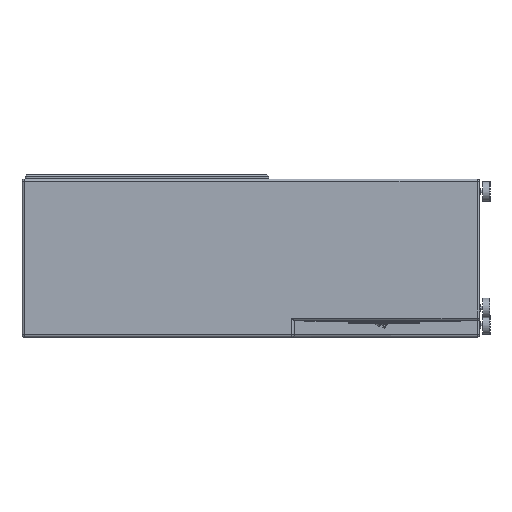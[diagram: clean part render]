
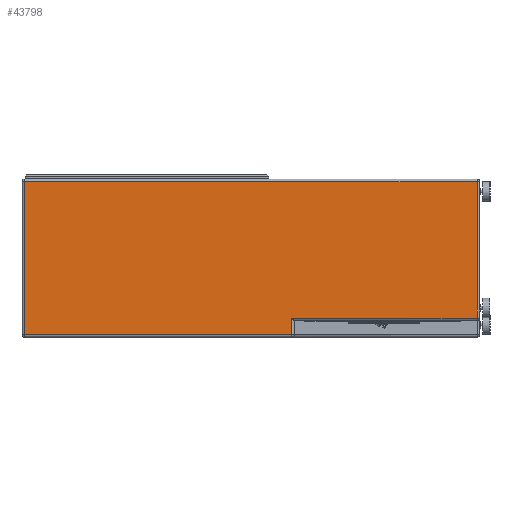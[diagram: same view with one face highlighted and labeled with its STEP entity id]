
A CAD part, left-side view. The second image highlights one B-rep face of the part: STEP entity #43798.
In plain terms, the highlighted planar face has unit normal (-1, 0, 0).
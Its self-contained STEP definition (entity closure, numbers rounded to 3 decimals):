
#4436=LINE('',#68182,#8232);
#4438=LINE('',#68189,#8234);
#4445=LINE('',#68213,#8241);
#4703=LINE('',#69096,#8499);
#4719=LINE('',#69179,#8515);
#4720=LINE('',#69180,#8516);
#8232=VECTOR('',#54695,10.);
#8234=VECTOR('',#54705,10.);
#8241=VECTOR('',#54736,10.);
#8499=VECTOR('',#55688,1000.);
#8515=VECTOR('',#55756,1000.);
#8516=VECTOR('',#55757,1000.);
#10969=PLANE('',#47438);
#12720=FACE_OUTER_BOUND('',#15342,.T.);
#15342=EDGE_LOOP('',(#35197,#35198,#35199,#35200,#35201,#35202));
#19696=VERTEX_POINT('',#68180);
#19697=VERTEX_POINT('',#68181);
#19698=VERTEX_POINT('',#68187);
#19703=VERTEX_POINT('',#68212);
#19980=VERTEX_POINT('',#69093);
#19981=VERTEX_POINT('',#69095);
#24934=EDGE_CURVE('',#19696,#19697,#4436,.T.);
#24939=EDGE_CURVE('',#19698,#19696,#4438,.T.);
#24950=EDGE_CURVE('',#19703,#19697,#4445,.T.);
#25385=EDGE_CURVE('',#19981,#19980,#4703,.T.);
#25414=EDGE_CURVE('',#19698,#19981,#4719,.T.);
#25415=EDGE_CURVE('',#19980,#19703,#4720,.T.);
#35197=ORIENTED_EDGE('',*,*,#24939,.F.);
#35198=ORIENTED_EDGE('',*,*,#25414,.T.);
#35199=ORIENTED_EDGE('',*,*,#25385,.T.);
#35200=ORIENTED_EDGE('',*,*,#25415,.T.);
#35201=ORIENTED_EDGE('',*,*,#24950,.T.);
#35202=ORIENTED_EDGE('',*,*,#24934,.F.);
#43798=ADVANCED_FACE('',(#12720),#10969,.T.);
#47438=AXIS2_PLACEMENT_3D('',#69178,#55754,#55755);
#54695=DIRECTION('',(0.,0.,-1.));
#54705=DIRECTION('',(0.,1.,0.));
#54736=DIRECTION('',(0.,-1.,0.));
#55688=DIRECTION('',(0.,1.,0.));
#55754=DIRECTION('center_axis',(-1.,0.,0.));
#55755=DIRECTION('ref_axis',(0.,0.,1.));
#55756=DIRECTION('',(0.,0.,1.));
#55757=DIRECTION('',(0.,0.,-1.));
#68180=CARTESIAN_POINT('',(-265.,-98.,-144.));
#68181=CARTESIAN_POINT('',(-265.,-98.,-184.));
#68182=CARTESIAN_POINT('',(-265.,-98.,-95.));
#68187=CARTESIAN_POINT('',(-265.,-544.,-144.));
#68189=CARTESIAN_POINT('',(-265.,-1.5,-144.));
#68212=CARTESIAN_POINT('',(-265.,544.,-184.));
#68213=CARTESIAN_POINT('',(-265.,-538.,-184.));
#69093=CARTESIAN_POINT('',(-265.,544.,184.));
#69095=CARTESIAN_POINT('',(-265.,-544.,184.));
#69096=CARTESIAN_POINT('',(-265.,-532.,184.));
#69178=CARTESIAN_POINT('Origin',(-265.,0.,0.));
#69179=CARTESIAN_POINT('',(-265.,-544.,-190.));
#69180=CARTESIAN_POINT('',(-265.,544.,-190.));
